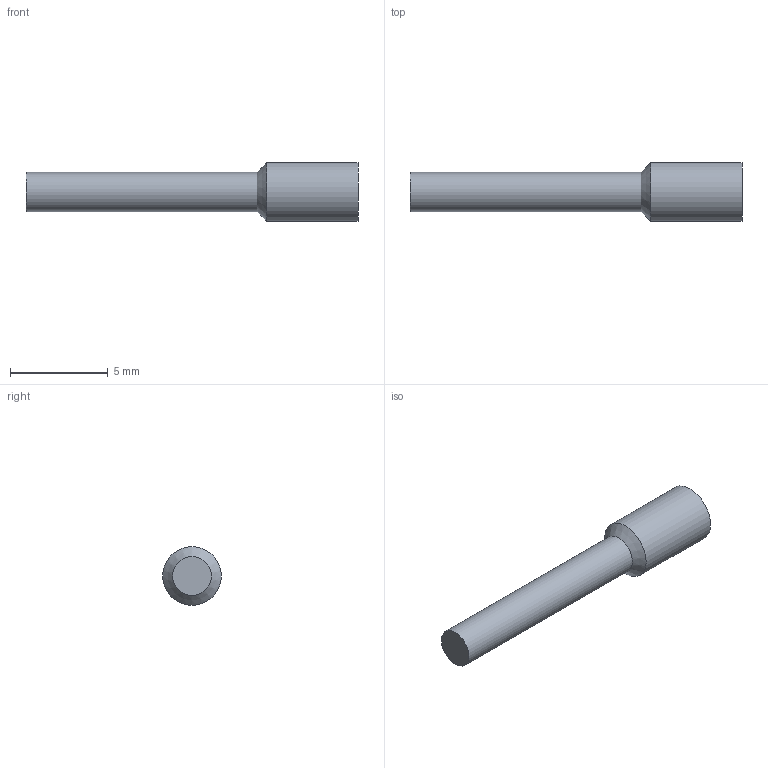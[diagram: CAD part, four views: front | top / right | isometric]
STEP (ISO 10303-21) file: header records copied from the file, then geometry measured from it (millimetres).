
FILE_DESCRIPTION(/* description */ ('STEP AP214'),/* implementation_level */ '2;1');
FILE_NAME(/* name */ 'KJP-02',/* time_stamp */ '2023-03-09T07:39:43+01:00',/* author */ ('License CC BY-ND 4.0'),/* organization */ ('CADENAS'),/* preprocessor_version */ 'ST-DEVELOPER v18.102',/* originating_system */ 'PARTsolutions',/* authorisation */ ' ');
FILE_SCHEMA (('AUTOMOTIVE_DESIGN {1 0 10303 214 3 1 1}'));
Length unit declared in the file: millimetre
Products named in the file (1): KJP-02
Bounding box: 17 x 3 x 3 mm (x, y, z)
Volume: 72.7 mm3; surface area: 134.1 mm2
Topology: 1 solids, 1 shells, 5 faces, 7 edges, 4 vertices
Faces by surface type: plane 2, cylinder 2, cone 1
Full cylindrical faces by diameter (mm): 2 x1, 3 x1
Entity records: 124 total; most frequent: DIRECTION 20, CARTESIAN_POINT 14, AXIS2_PLACEMENT_3D 10, ORIENTED_EDGE 8, EDGE_LOOP 8, FACE_BOUND 8, ADVANCED_FACE 5, EDGE_CURVE 4
